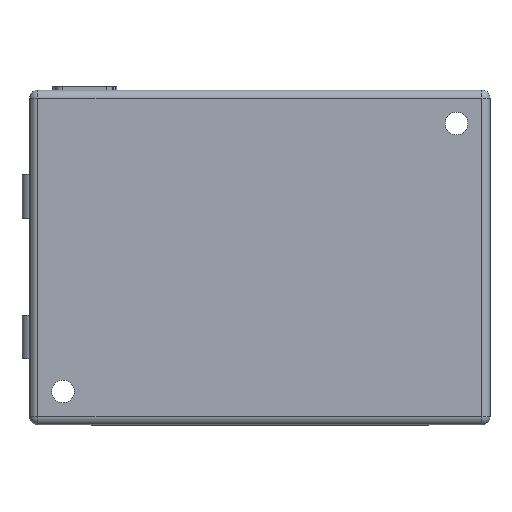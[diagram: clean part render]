
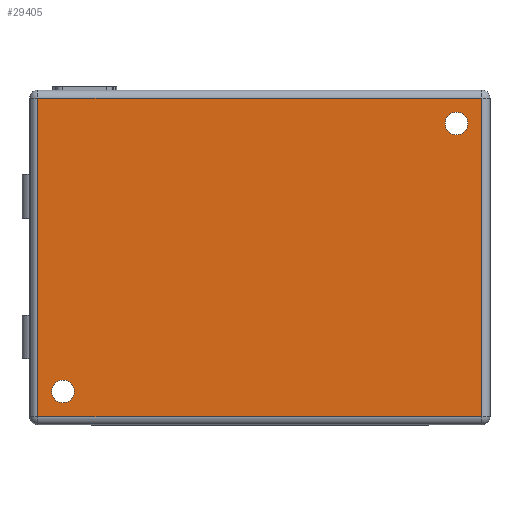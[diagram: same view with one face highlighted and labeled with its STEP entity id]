
A CAD part, front view. The second image highlights one B-rep face of the part: STEP entity #29405.
In plain terms, the highlighted planar face has unit normal (0, -1, 0).
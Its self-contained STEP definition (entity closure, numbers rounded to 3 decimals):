
#27677=DIRECTION('',(1.,0.,0.));
#27678=VECTOR('',#27677,53.);
#27679=CARTESIAN_POINT('',(-26.5,0.,-19.));
#27680=LINE('',#27679,#27678);
#27681=DIRECTION('',(0.,0.,-1.));
#27682=VECTOR('',#27681,38.);
#27683=CARTESIAN_POINT('',(-26.5,0.,19.));
#27684=LINE('',#27683,#27682);
#27685=DIRECTION('',(-1.,0.,0.));
#27686=VECTOR('',#27685,53.);
#27687=CARTESIAN_POINT('',(26.5,0.,19.));
#27688=LINE('',#27687,#27686);
#27689=DIRECTION('',(0.,0.,1.));
#27690=VECTOR('',#27689,38.);
#27691=CARTESIAN_POINT('',(26.5,0.,-19.));
#27692=LINE('',#27691,#27690);
#27693=CARTESIAN_POINT('',(23.5,0.,16.));
#27694=DIRECTION('',(0.,1.,0.));
#27695=DIRECTION('',(-1.,0.,0.));
#27696=AXIS2_PLACEMENT_3D('',#27693,#27694,#27695);
#27698=CARTESIAN_POINT('',(23.5,0.,16.));
#27699=DIRECTION('',(0.,1.,0.));
#27700=DIRECTION('',(1.,0.,0.));
#27701=AXIS2_PLACEMENT_3D('',#27698,#27699,#27700);
#27703=CARTESIAN_POINT('',(-23.5,0.,-16.));
#27704=DIRECTION('',(0.,1.,0.));
#27705=DIRECTION('',(-1.,0.,0.));
#27706=AXIS2_PLACEMENT_3D('',#27703,#27704,#27705);
#27708=CARTESIAN_POINT('',(-23.5,0.,-16.));
#27709=DIRECTION('',(0.,1.,0.));
#27710=DIRECTION('',(1.,0.,0.));
#27711=AXIS2_PLACEMENT_3D('',#27708,#27709,#27710);
#27855=CARTESIAN_POINT('',(-26.5,0.,-19.));
#27856=CARTESIAN_POINT('',(26.5,0.,-19.));
#27857=VERTEX_POINT('',#27855);
#27858=VERTEX_POINT('',#27856);
#27867=CARTESIAN_POINT('',(-26.5,0.,19.));
#27868=VERTEX_POINT('',#27867);
#27875=CARTESIAN_POINT('',(26.5,0.,19.));
#27876=VERTEX_POINT('',#27875);
#27981=CARTESIAN_POINT('',(22.15,0.,16.));
#27982=CARTESIAN_POINT('',(24.85,0.,16.));
#27983=VERTEX_POINT('',#27981);
#27984=VERTEX_POINT('',#27982);
#27985=CARTESIAN_POINT('',(-24.85,0.,-16.));
#27986=CARTESIAN_POINT('',(-22.15,0.,-16.));
#27987=VERTEX_POINT('',#27985);
#27988=VERTEX_POINT('',#27986);
#29380=CARTESIAN_POINT('',(0.,0.,0.));
#29381=DIRECTION('',(0.,1.,0.));
#29382=DIRECTION('',(1.,0.,0.));
#29383=AXIS2_PLACEMENT_3D('',#29380,#29381,#29382);
#29384=PLANE('',#29383);
#29385=ORIENTED_EDGE('',*,*,#29373,.F.);
#29386=ORIENTED_EDGE('',*,*,#28182,.F.);
#29388=ORIENTED_EDGE('',*,*,#29387,.F.);
#29390=ORIENTED_EDGE('',*,*,#29389,.F.);
#29391=EDGE_LOOP('',(#29385,#29386,#29388,#29390));
#29392=FACE_OUTER_BOUND('',#29391,.F.);
#29394=ORIENTED_EDGE('',*,*,#29393,.F.);
#29396=ORIENTED_EDGE('',*,*,#29395,.F.);
#29397=EDGE_LOOP('',(#29394,#29396));
#29398=FACE_BOUND('',#29397,.F.);
#29400=ORIENTED_EDGE('',*,*,#29399,.F.);
#29402=ORIENTED_EDGE('',*,*,#29401,.F.);
#29403=EDGE_LOOP('',(#29400,#29402));
#29404=FACE_BOUND('',#29403,.F.);
#29405=ADVANCED_FACE('',(#29392,#29398,#29404),#29384,.F.);
#27697=CIRCLE('',#27696,1.35);
#27702=CIRCLE('',#27701,1.35);
#27707=CIRCLE('',#27706,1.35);
#27712=CIRCLE('',#27711,1.35);
#28182=EDGE_CURVE('',#27868,#27857,#27684,.T.);
#29373=EDGE_CURVE('',#27857,#27858,#27680,.T.);
#29387=EDGE_CURVE('',#27876,#27868,#27688,.T.);
#29389=EDGE_CURVE('',#27858,#27876,#27692,.T.);
#29393=EDGE_CURVE('',#27983,#27984,#27697,.T.);
#29395=EDGE_CURVE('',#27984,#27983,#27702,.T.);
#29399=EDGE_CURVE('',#27987,#27988,#27707,.T.);
#29401=EDGE_CURVE('',#27988,#27987,#27712,.T.);
